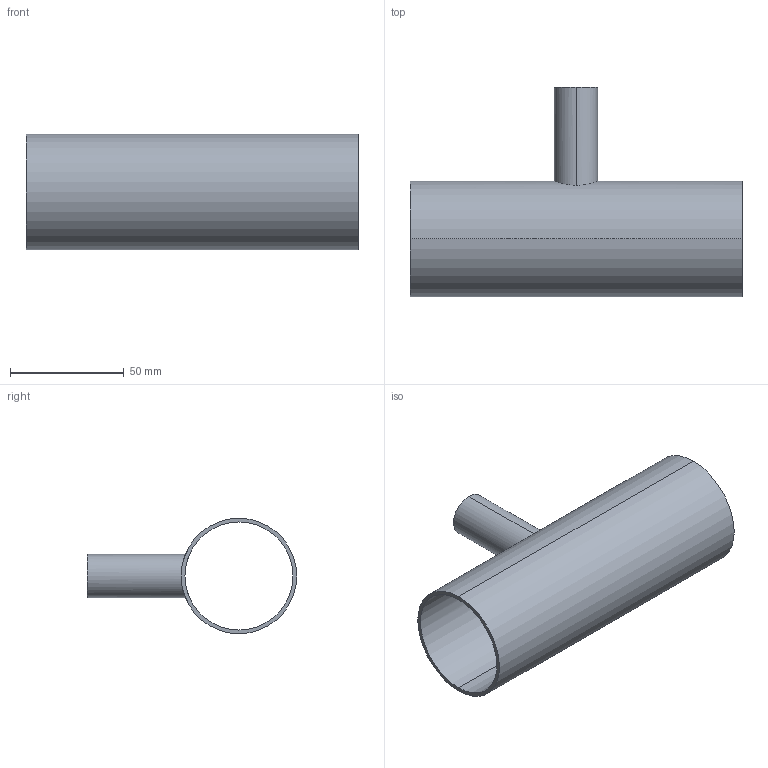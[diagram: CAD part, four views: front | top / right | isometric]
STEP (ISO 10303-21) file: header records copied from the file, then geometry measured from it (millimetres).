
FILE_DESCRIPTION (( 'STEP AP214' ), '1' );
FILE_NAME ('TE7RWWW6L2.0x.75-...STEP', '2016-05-24T04:12:58', ( 'eran' ), ( '' ), 'SwSTEP 2.0', 'SolidWorks 2016', '' );
FILE_SCHEMA (( 'AUTOMOTIVE_DESIGN' ));
Length unit declared in the file: millimetre
Products named in the file (1): TE7RWWW6L2.0x.75-..
Bounding box: 146 x 92.1 x 50.8 mm (x, y, z)
Volume: 40665.9 mm3; surface area: 49884.1 mm2
Topology: 1 solids, 1 shells, 11 faces, 24 edges, 16 vertices
Faces by surface type: cylinder 8, plane 3
Entity records: 528 total; most frequent: CARTESIAN_POINT 236, DIRECTION 56, ORIENTED_EDGE 48, AXIS2_PLACEMENT_3D 24, EDGE_CURVE 24, VERTEX_POINT 16, EDGE_LOOP 16, CIRCLE 12
